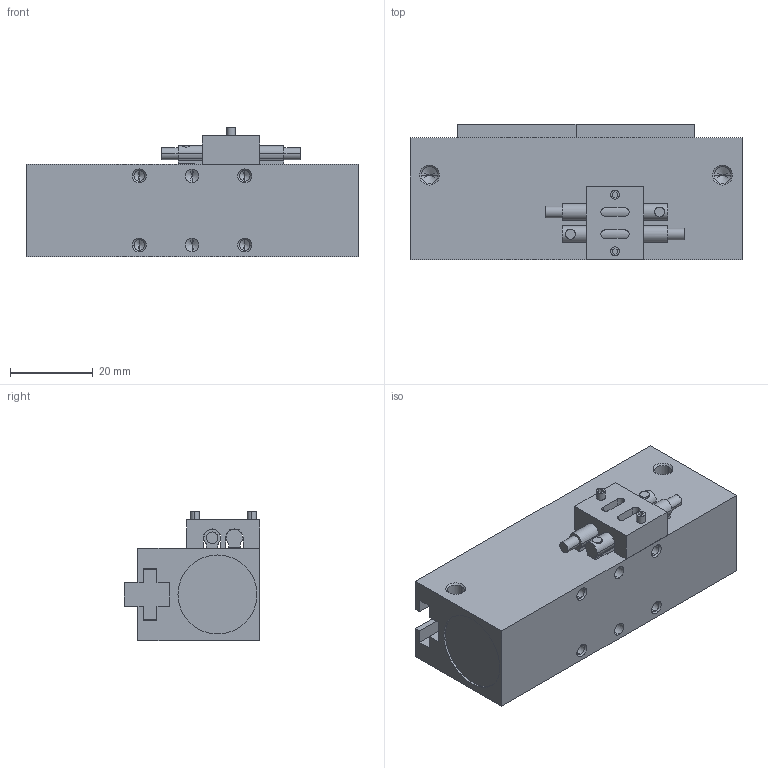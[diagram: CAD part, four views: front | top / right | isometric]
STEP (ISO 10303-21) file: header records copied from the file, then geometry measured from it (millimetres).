
FILE_DESCRIPTION (( 'STEP AP203' ), '1' );
FILE_NAME ('AGLP-3 CLOSED in MM.STEP', '2014-10-31T17:43:10', ( 'setup' ), ( '' ), 'SwSTEP 2.0', 'SolidWorks 2013', '' );
FILE_SCHEMA (( 'CONFIG_CONTROL_DESIGN' ));
Length unit declared in the file: millimetre
Products named in the file (5): AGLP-3 BODY; AGLP-3 JAW; AGLP-3 BLOCK; AGLP-3 SENSOR; AGLP-3 CLOSED in MM
Assembly tree (6 placements, depth 2):
  AGLP-3 CLOSED in MM
    AGLP-3 BODY
    AGLP-3 JAW  x2
    AGLP-3 BLOCK
    AGLP-3 SENSOR  x2
Bounding box: 80.01 x 32.59 x 31.11 mm (x, y, z)
Volume: 52713.3 mm3; surface area: 17614.9 mm2
Topology: 6 solids, 6 shells, 252 faces, 612 edges, 366 vertices
Faces by surface type: plane 108, cylinder 76, cone 68
Entity records: 5802 total; most frequent: CARTESIAN_POINT 990, DIRECTION 917, ORIENTED_EDGE 838, EDGE_CURVE 419, AXIS2_PLACEMENT_3D 316, VECTOR 285, LINE 285, VERTEX_POINT 267
